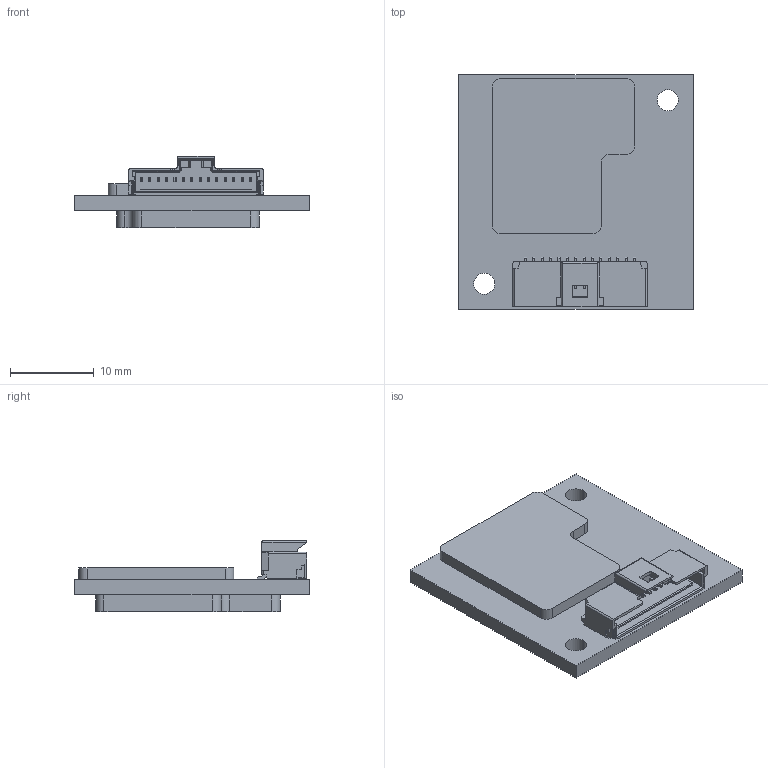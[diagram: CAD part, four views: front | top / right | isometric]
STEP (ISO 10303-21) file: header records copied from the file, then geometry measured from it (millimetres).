
FILE_DESCRIPTION (( 'STEP AP214' ), '1' );
FILE_NAME ('MODM448.STEP', '2024-12-23T09:11:58', ( '' ), ( '' ), 'SwSTEP 2.0', 'SolidWorks 2022', '' );
FILE_SCHEMA (( 'AUTOMOTIVE_DESIGN' ));
Length unit declared in the file: millimetre
Products named in the file (1): MODM448
Bounding box: 28 x 28 x 8.48 mm (x, y, z)
Volume: 2603.5 mm3; surface area: 2558.1 mm2
Topology: 2 solids, 2 shells, 478 faces, 1352 edges, 894 vertices
Faces by surface type: plane 383, cylinder 91, cone 4
Entity records: 20306 total; most frequent: CARTESIAN_POINT 2761, ORIENTED_EDGE 2704, DIRECTION 2481, EDGE_CURVE 1352, VECTOR 1159, LINE 1159, VERTEX_POINT 894, AXIS2_PLACEMENT_3D 661
